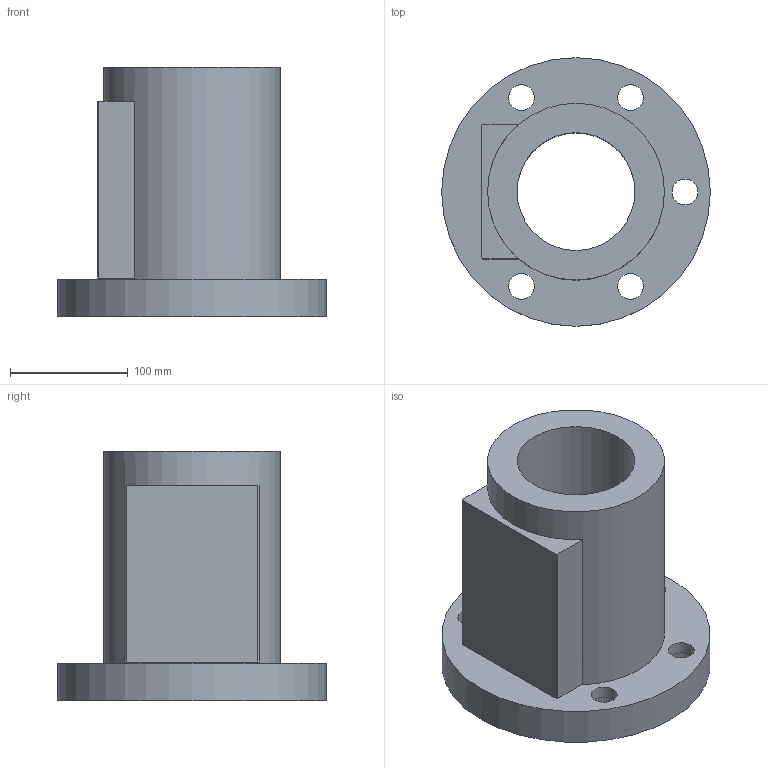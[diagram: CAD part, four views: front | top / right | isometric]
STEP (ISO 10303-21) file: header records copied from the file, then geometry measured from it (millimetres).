
FILE_DESCRIPTION(/* description */ (''),/* implementation_level */ '2;1');
FILE_NAME(/* name */ '100-16B3',/* time_stamp */ '2006-07-31T12:04:32+08:00',/* author */ (''),/* organization */ (''),/* preprocessor_version */ 'ST-DEVELOPER v9',/* originating_system */ 'UGS - NX 4.0',/* authorisation */ '');
FILE_SCHEMA (('CONFIG_CONTROL_DESIGN'));
Length unit declared in the file: millimetre
Products named in the file (1): 100-16B3
Bounding box: 228 x 228 x 212 mm (x, y, z)
Volume: 2938563.3 mm3; surface area: 260864 mm2
Topology: 1 solids, 1 shells, 30 faces, 67 edges, 46 vertices
Faces by surface type: plane 17, cylinder 13
Full cylindrical faces by diameter (mm): 22 x5, 32 x5, 100 x1, 150 x1, 228 x1
Entity records: 860 total; most frequent: DIRECTION 140, CARTESIAN_POINT 123, ORIENTED_EDGE 100, EDGE_LOOP 62, AXIS2_PLACEMENT_3D 59, EDGE_CURVE 50, FACE_BOUND 45, VERTEX_POINT 42
